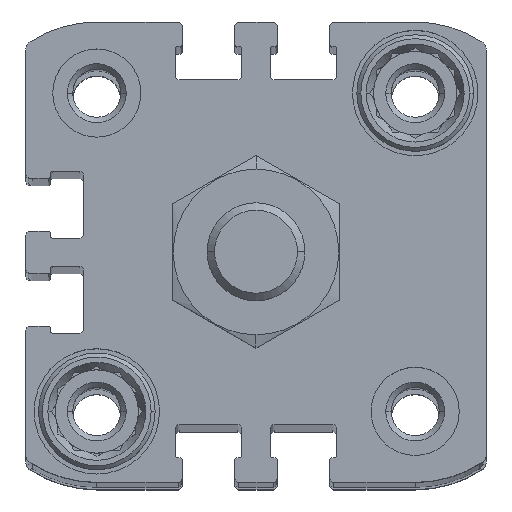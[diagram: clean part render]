
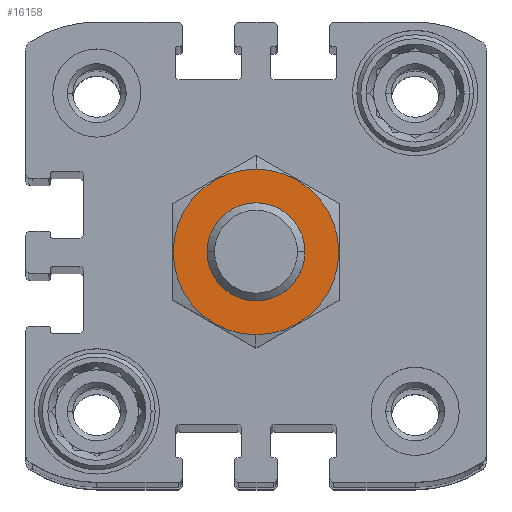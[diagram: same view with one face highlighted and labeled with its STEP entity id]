
A CAD part, top view. The second image highlights one B-rep face of the part: STEP entity #16158.
In plain terms, the highlighted planar face has unit normal (0, 0, 1) as drawn and (0, 1, 0) by its records, which use the part's own axes.
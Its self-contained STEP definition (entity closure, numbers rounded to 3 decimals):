
#100 = VERTEX_POINT ( 'NONE', #14166 ) ;
#195 = CIRCLE ( 'NONE', #7762, 8.45 ) ;
#286 = ORIENTED_EDGE ( 'NONE', *, *, #4483, .F. ) ;
#473 = ORIENTED_EDGE ( 'NONE', *, *, #10077, .F. ) ;
#474 = FACE_OUTER_BOUND ( 'NONE', #1545, .T. ) ;
#821 = CIRCLE ( 'NONE', #12813, 5. ) ;
#896 = EDGE_CURVE ( 'NONE', #100, #10428, #10666, .T. ) ;
#1545 = EDGE_LOOP ( 'NONE', ( #286, #13815 ) ) ;
#1687 = DIRECTION ( 'NONE',  ( 0., 1., 0. ) ) ;
#1769 = VERTEX_POINT ( 'NONE', #5484 ) ;
#2148 = CARTESIAN_POINT ( 'NONE',  ( 0., 0., 0. ) ) ;
#2622 = PLANE ( 'NONE',  #15184 ) ;
#3467 = DIRECTION ( 'NONE',  ( 0., 0., -1. ) ) ;
#3659 = DIRECTION ( 'NONE',  ( 0., 1., 0. ) ) ;
#3925 = DIRECTION ( 'NONE',  ( 0., 0., -1. ) ) ;
#4060 = CARTESIAN_POINT ( 'NONE',  ( 0., 0., 8.45 ) ) ;
#4483 = EDGE_CURVE ( 'NONE', #1769, #5329, #195, .T. ) ;
#4519 = CARTESIAN_POINT ( 'NONE',  ( 0., 0., -5. ) ) ;
#5329 = VERTEX_POINT ( 'NONE', #4060 ) ;
#5484 = CARTESIAN_POINT ( 'NONE',  ( 0., 0., -8.45 ) ) ;
#5632 = CIRCLE ( 'NONE', #15743, 8.45 ) ;
#6482 = CARTESIAN_POINT ( 'NONE',  ( 0., 0., 0. ) ) ;
#6842 = EDGE_LOOP ( 'NONE', ( #12563, #473 ) ) ;
#7762 = AXIS2_PLACEMENT_3D ( 'NONE', #8892, #8870, #8856 ) ;
#8856 = DIRECTION ( 'NONE',  ( 0., 0., -1. ) ) ;
#8870 = DIRECTION ( 'NONE',  ( 0., -1., 0. ) ) ;
#8892 = CARTESIAN_POINT ( 'NONE',  ( 0., 0., 0. ) ) ;
#10077 = EDGE_CURVE ( 'NONE', #10428, #100, #821, .T. ) ;
#10428 = VERTEX_POINT ( 'NONE', #4519 ) ;
#10666 = CIRCLE ( 'NONE', #10794, 5. ) ;
#10794 = AXIS2_PLACEMENT_3D ( 'NONE', #11885, #1687, #12312 ) ;
#11056 = DIRECTION ( 'NONE',  ( 0., -1., 0. ) ) ;
#11232 = CARTESIAN_POINT ( 'NONE',  ( 0., 0., 0. ) ) ;
#11503 = DIRECTION ( 'NONE',  ( 0., -1., 0. ) ) ;
#11885 = CARTESIAN_POINT ( 'NONE',  ( 0., 0., 0. ) ) ;
#12312 = DIRECTION ( 'NONE',  ( 0., 0., 1. ) ) ;
#12451 = DIRECTION ( 'NONE',  ( 0., 0., 1. ) ) ;
#12563 = ORIENTED_EDGE ( 'NONE', *, *, #896, .F. ) ;
#12813 = AXIS2_PLACEMENT_3D ( 'NONE', #11232, #3659, #12451 ) ;
#13815 = ORIENTED_EDGE ( 'NONE', *, *, #14399, .F. ) ;
#14166 = CARTESIAN_POINT ( 'NONE',  ( 0., 0., 5. ) ) ;
#14396 = FACE_BOUND ( 'NONE', #6842, .T. ) ;
#14399 = EDGE_CURVE ( 'NONE', #5329, #1769, #5632, .T. ) ;
#15184 = AXIS2_PLACEMENT_3D ( 'NONE', #6482, #11503, #3925 ) ;
#15743 = AXIS2_PLACEMENT_3D ( 'NONE', #2148, #11056, #3467 ) ;
#16158 = ADVANCED_FACE ( 'NONE', ( #14396, #474 ), #2622, .F. ) ;
